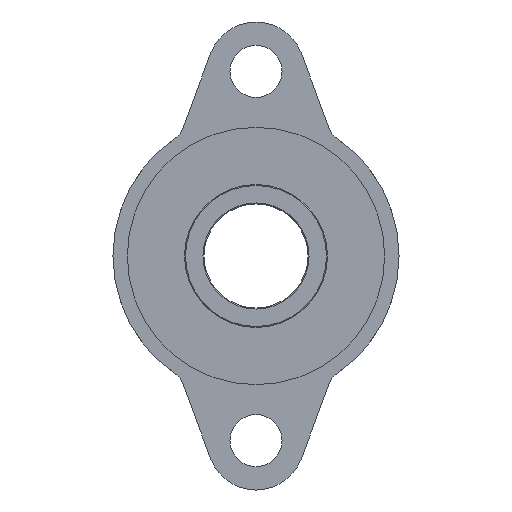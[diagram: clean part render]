
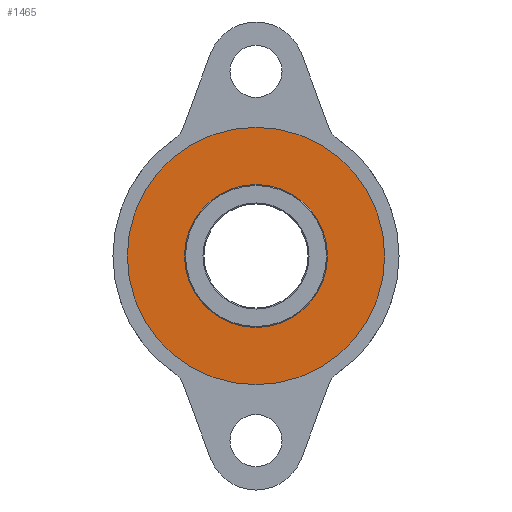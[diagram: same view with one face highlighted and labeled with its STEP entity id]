
A CAD part, left-side view. The second image highlights one B-rep face of the part: STEP entity #1465.
In plain terms, the highlighted planar face has unit normal (-1, 0, 0).
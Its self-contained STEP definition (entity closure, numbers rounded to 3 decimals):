
#30=FACE_BOUND('',#466,.T.);
#58=PLANE('',#1674);
#363=FACE_OUTER_BOUND('',#465,.T.);
#465=EDGE_LOOP('',(#1325));
#466=EDGE_LOOP('',(#1326));
#592=CIRCLE('',#1633,13.75);
#603=CIRCLE('',#1673,24.75);
#706=VERTEX_POINT('',#2772);
#732=VERTEX_POINT('',#2879);
#884=EDGE_CURVE('',#706,#706,#592,.T.);
#937=EDGE_CURVE('',#732,#732,#603,.T.);
#1325=ORIENTED_EDGE('',*,*,#937,.F.);
#1326=ORIENTED_EDGE('',*,*,#884,.F.);
#1465=ADVANCED_FACE('',(#363,#30),#58,.T.);
#1633=AXIS2_PLACEMENT_3D('',#2773,#2001,#2002);
#1673=AXIS2_PLACEMENT_3D('',#2881,#2123,#2124);
#1674=AXIS2_PLACEMENT_3D('',#2882,#2125,#2126);
#2001=DIRECTION('center_axis',(-1.,0.,0.));
#2002=DIRECTION('ref_axis',(0.,0.,-1.));
#2123=DIRECTION('center_axis',(1.,0.,0.));
#2124=DIRECTION('ref_axis',(0.,0.,
-1.));
#2125=DIRECTION('center_axis',(-1.,0.,0.));
#2126=DIRECTION('ref_axis',(0.,0.,1.));
#2772=CARTESIAN_POINT('',(-102.648,579.533,280.691));
#2773=CARTESIAN_POINT('Origin',(-102.648,579.533,266.941));
#2879=CARTESIAN_POINT('',(-102.648,579.533,291.691));
#2881=CARTESIAN_POINT('Origin',(-102.648,579.533,266.941));
#2882=CARTESIAN_POINT('Origin',(-102.648,579.533,266.941));
